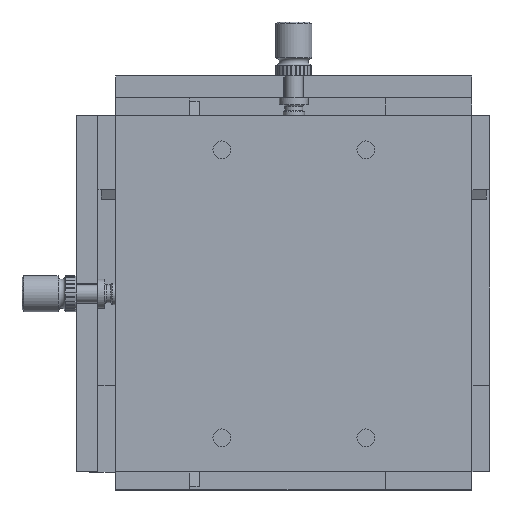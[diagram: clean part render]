
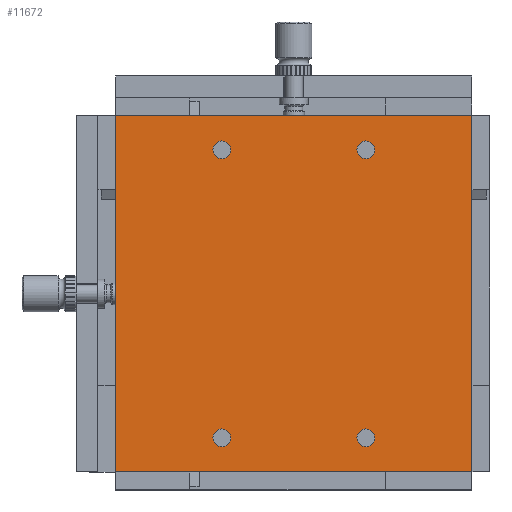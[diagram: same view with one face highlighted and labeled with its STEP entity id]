
A CAD part, front view. The second image highlights one B-rep face of the part: STEP entity #11672.
In plain terms, the highlighted planar face has unit normal (0, -1, 0).
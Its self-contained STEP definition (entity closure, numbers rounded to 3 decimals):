
#10888=CARTESIAN_POINT('',(67.041,0.,9.5));
#10889=VERTEX_POINT('',#10888);
#10890=CARTESIAN_POINT('',(69.5,0.0,9.5));
#10891=DIRECTION('',(0.0,1.0,0.0));
#10892=DIRECTION('',(1.0,0.0,0.0));
#10893=AXIS2_PLACEMENT_3D('',#10890,#10891,#10892);
#10894=CIRCLE('',#10893,2.459);
#10895=EDGE_CURVE('',#10889,#10889,#10894,.T.);
#10956=CARTESIAN_POINT('',(27.042,0.,9.5));
#10957=VERTEX_POINT('',#10956);
#10958=CARTESIAN_POINT('',(29.5,0.0,9.5));
#10959=DIRECTION('',(0.0,1.0,0.0));
#10960=DIRECTION('',(1.0,0.0,0.0));
#10961=AXIS2_PLACEMENT_3D('',#10958,#10959,#10960);
#10962=CIRCLE('',#10961,2.459);
#10963=EDGE_CURVE('',#10957,#10957,#10962,.T.);
#11024=CARTESIAN_POINT('',(67.041,0.,89.5));
#11025=VERTEX_POINT('',#11024);
#11026=CARTESIAN_POINT('',(69.5,0.0,89.5));
#11027=DIRECTION('',(0.0,1.0,0.0));
#11028=DIRECTION('',(1.0,0.0,0.0));
#11029=AXIS2_PLACEMENT_3D('',#11026,#11027,#11028);
#11030=CIRCLE('',#11029,2.459);
#11031=EDGE_CURVE('',#11025,#11025,#11030,.T.);
#11092=CARTESIAN_POINT('',(27.042,0.,89.5));
#11093=VERTEX_POINT('',#11092);
#11094=CARTESIAN_POINT('',(29.5,0.0,89.5));
#11095=DIRECTION('',(0.0,1.0,0.0));
#11096=DIRECTION('',(1.0,0.0,0.0));
#11097=AXIS2_PLACEMENT_3D('',#11094,#11095,#11096);
#11098=CIRCLE('',#11097,2.459);
#11099=EDGE_CURVE('',#11093,#11093,#11098,.T.);
#11328=CARTESIAN_POINT('',(0.0,0.0,0.0));
#11329=VERTEX_POINT('',#11328);
#11330=CARTESIAN_POINT('',(99.0,0.0,0.0));
#11331=VERTEX_POINT('',#11330);
#11332=CARTESIAN_POINT('',(0.0,0.0,0.0));
#11333=DIRECTION('',(1.0,0.0,0.0));
#11334=VECTOR('',#11333,99.0);
#11335=LINE('',#11332,#11334);
#11336=EDGE_CURVE('',#11329,#11331,#11335,.T.);
#11472=CARTESIAN_POINT('',(0.0,0.0,99.0));
#11473=VERTEX_POINT('',#11472);
#11500=CARTESIAN_POINT('',(0.0,0.0,0.0));
#11501=DIRECTION('',(0.0,0.0,1.0));
#11502=VECTOR('',#11501,99.0);
#11503=LINE('',#11500,#11502);
#11504=EDGE_CURVE('',#11329,#11473,#11503,.T.);
#11611=CARTESIAN_POINT('',(99.0,0.0,99.0));
#11612=VERTEX_POINT('',#11611);
#11619=CARTESIAN_POINT('',(99.0,0.0,0.0));
#11620=DIRECTION('',(0.0,0.0,1.0));
#11621=VECTOR('',#11620,99.0);
#11622=LINE('',#11619,#11621);
#11623=EDGE_CURVE('',#11331,#11612,#11622,.T.);
#11644=CARTESIAN_POINT('',(99.0,0.0,0.0));
#11645=DIRECTION('',(0.0,-1.0,0.0));
#11646=DIRECTION('',(0.0,0.0,-1.0));
#11647=AXIS2_PLACEMENT_3D('',#11644,#11645,#11646);
#11648=PLANE('',#11647);
#11649=CARTESIAN_POINT('',(99.0,0.0,99.0));
#11650=DIRECTION('',(-1.0,0.0,0.0));
#11651=VECTOR('',#11650,99.0);
#11652=LINE('',#11649,#11651);
#11653=EDGE_CURVE('',#11612,#11473,#11652,.T.);
#11654=ORIENTED_EDGE('',*,*,#11653,.T.);
#11655=ORIENTED_EDGE('',*,*,#11504,.F.);
#11656=ORIENTED_EDGE('',*,*,#11336,.T.);
#11657=ORIENTED_EDGE('',*,*,#11623,.T.);
#11658=EDGE_LOOP('',(#11654,#11655,#11656,#11657));
#11659=FACE_OUTER_BOUND('',#11658,.T.);
#11660=ORIENTED_EDGE('',*,*,#10895,.T.);
#11661=EDGE_LOOP('',(#11660));
#11662=FACE_BOUND('',#11661,.T.);
#11663=ORIENTED_EDGE('',*,*,#10963,.T.);
#11664=EDGE_LOOP('',(#11663));
#11665=FACE_BOUND('',#11664,.T.);
#11666=ORIENTED_EDGE('',*,*,#11031,.T.);
#11667=EDGE_LOOP('',(#11666));
#11668=FACE_BOUND('',#11667,.T.);
#11669=ORIENTED_EDGE('',*,*,#11099,.T.);
#11670=EDGE_LOOP('',(#11669));
#11671=FACE_BOUND('',#11670,.T.);
#11672=ADVANCED_FACE('',(#11659,#11662,#11665,#11668,#11671),#11648,.T.);
